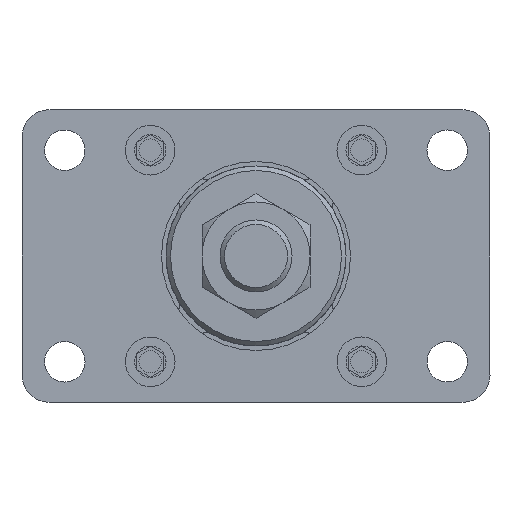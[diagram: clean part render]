
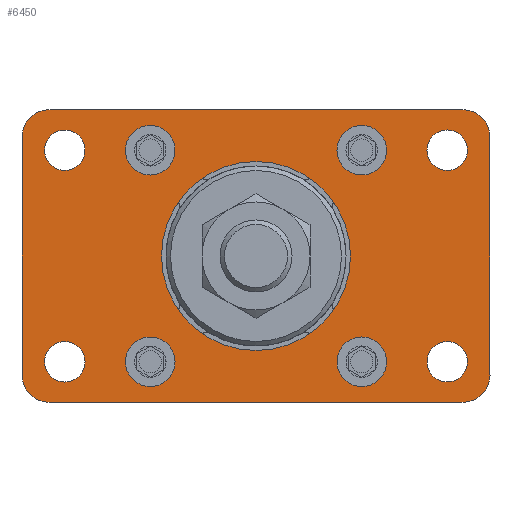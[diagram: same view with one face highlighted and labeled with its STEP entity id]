
A CAD part, front view. The second image highlights one B-rep face of the part: STEP entity #6450.
In plain terms, the highlighted planar face has unit normal (0, -1, 0).
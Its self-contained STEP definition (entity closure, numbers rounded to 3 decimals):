
#428=LINE('',#9889,#770);
#432=LINE('',#9898,#774);
#436=LINE('',#9907,#778);
#442=LINE('',#9921,#784);
#770=VECTOR('',#8387,1000.);
#774=VECTOR('',#8393,1000.);
#778=VECTOR('',#8399,1000.);
#784=VECTOR('',#8407,1000.);
#2115=ORIENTED_EDGE('',*,*,#2802,.T.);
#2116=ORIENTED_EDGE('',*,*,#2803,.T.);
#2117=ORIENTED_EDGE('',*,*,#2804,.T.);
#2118=ORIENTED_EDGE('',*,*,#2805,.T.);
#2119=ORIENTED_EDGE('',*,*,#2806,.T.);
#2120=ORIENTED_EDGE('',*,*,#2807,.T.);
#2121=ORIENTED_EDGE('',*,*,#2808,.T.);
#2122=ORIENTED_EDGE('',*,*,#2809,.T.);
#2123=ORIENTED_EDGE('',*,*,#2810,.T.);
#2124=ORIENTED_EDGE('',*,*,#2800,.T.);
#2125=ORIENTED_EDGE('',*,*,#2811,.T.);
#2126=ORIENTED_EDGE('',*,*,#2786,.T.);
#2127=ORIENTED_EDGE('',*,*,#2812,.T.);
#2128=ORIENTED_EDGE('',*,*,#2790,.T.);
#2129=ORIENTED_EDGE('',*,*,#2813,.T.);
#2130=ORIENTED_EDGE('',*,*,#2794,.T.);
#2131=ORIENTED_EDGE('',*,*,#2814,.T.);
#2786=EDGE_CURVE('',#3247,#3248,#428,.T.);
#2790=EDGE_CURVE('',#3251,#3252,#432,.T.);
#2794=EDGE_CURVE('',#3255,#3256,#436,.T.);
#2800=EDGE_CURVE('',#3262,#3261,#442,.T.);
#2802=EDGE_CURVE('',#3263,#3263,#3520,.F.);
#2803=EDGE_CURVE('',#3264,#3264,#3521,.T.);
#2804=EDGE_CURVE('',#3265,#3265,#3522,.T.);
#2805=EDGE_CURVE('',#3266,#3266,#3523,.T.);
#2806=EDGE_CURVE('',#3267,#3267,#3524,.T.);
#2807=EDGE_CURVE('',#3268,#3268,#3525,.T.);
#2808=EDGE_CURVE('',#3269,#3269,#3526,.T.);
#2809=EDGE_CURVE('',#3270,#3270,#3527,.T.);
#2810=EDGE_CURVE('',#3271,#3271,#3528,.T.);
#2811=EDGE_CURVE('',#3261,#3247,#3529,.T.);
#2812=EDGE_CURVE('',#3248,#3251,#3530,.T.);
#2813=EDGE_CURVE('',#3252,#3255,#3531,.T.);
#2814=EDGE_CURVE('',#3256,#3262,#3532,.T.);
#3247=VERTEX_POINT('',#9890);
#3248=VERTEX_POINT('',#9891);
#3251=VERTEX_POINT('',#9899);
#3252=VERTEX_POINT('',#9900);
#3255=VERTEX_POINT('',#9908);
#3256=VERTEX_POINT('',#9909);
#3261=VERTEX_POINT('',#9920);
#3262=VERTEX_POINT('',#9922);
#3263=VERTEX_POINT('',#9926);
#3264=VERTEX_POINT('',#9928);
#3265=VERTEX_POINT('',#9930);
#3266=VERTEX_POINT('',#9932);
#3267=VERTEX_POINT('',#9934);
#3268=VERTEX_POINT('',#9936);
#3269=VERTEX_POINT('',#9938);
#3270=VERTEX_POINT('',#9940);
#3271=VERTEX_POINT('',#9942);
#3520=CIRCLE('',#7006,21.);
#3521=CIRCLE('',#7007,5.5);
#3522=CIRCLE('',#7008,5.5);
#3523=CIRCLE('',#7009,5.5);
#3524=CIRCLE('',#7010,5.5);
#3525=CIRCLE('',#7011,4.5);
#3526=CIRCLE('',#7012,4.5);
#3527=CIRCLE('',#7013,4.5);
#3528=CIRCLE('',#7014,4.5);
#3529=CIRCLE('',#7015,6.);
#3530=CIRCLE('',#7016,6.);
#3531=CIRCLE('',#7017,6.);
#3532=CIRCLE('',#7018,6.);
#3902=EDGE_LOOP('',(#2115));
#3903=EDGE_LOOP('',(#2116));
#3904=EDGE_LOOP('',(#2117));
#3905=EDGE_LOOP('',(#2118));
#3906=EDGE_LOOP('',(#2119));
#3907=EDGE_LOOP('',(#2120));
#3908=EDGE_LOOP('',(#2121));
#3909=EDGE_LOOP('',(#2122));
#3910=EDGE_LOOP('',(#2123));
#3911=EDGE_LOOP('',(#2124,#2125,#2126,#2127,#2128,#2129,#2130,#2131));
#4308=FACE_BOUND('',#3902,.T.);
#4309=FACE_BOUND('',#3903,.T.);
#4310=FACE_BOUND('',#3904,.T.);
#4311=FACE_BOUND('',#3905,.T.);
#4312=FACE_BOUND('',#3906,.T.);
#4313=FACE_BOUND('',#3907,.T.);
#4314=FACE_BOUND('',#3908,.T.);
#4315=FACE_BOUND('',#3909,.T.);
#4316=FACE_BOUND('',#3910,.T.);
#4317=FACE_BOUND('',#3911,.T.);
#4503=PLANE('',#7005);
#6450=ADVANCED_FACE('',(#4308,#4309,#4310,#4311,#4312,#4313,#4314,#4315,
#4316,#4317),#4503,.T.);
#7005=AXIS2_PLACEMENT_3D('',#9924,#8409,#8410);
#7006=AXIS2_PLACEMENT_3D('',#9925,#8411,#8412);
#7007=AXIS2_PLACEMENT_3D('',#9927,#8413,#8414);
#7008=AXIS2_PLACEMENT_3D('',#9929,#8415,#8416);
#7009=AXIS2_PLACEMENT_3D('',#9931,#8417,#8418);
#7010=AXIS2_PLACEMENT_3D('',#9933,#8419,#8420);
#7011=AXIS2_PLACEMENT_3D('',#9935,#8421,#8422);
#7012=AXIS2_PLACEMENT_3D('',#9937,#8423,#8424);
#7013=AXIS2_PLACEMENT_3D('',#9939,#8425,#8426);
#7014=AXIS2_PLACEMENT_3D('',#9941,#8427,#8428);
#7015=AXIS2_PLACEMENT_3D('',#9943,#8429,#8430);
#7016=AXIS2_PLACEMENT_3D('',#9944,#8431,#8432);
#7017=AXIS2_PLACEMENT_3D('',#9945,#8433,#8434);
#7018=AXIS2_PLACEMENT_3D('',#9946,#8435,#8436);
#8387=DIRECTION('',(0.,0.,-1.));
#8393=DIRECTION('',(1.,0.,0.));
#8399=DIRECTION('',(0.,0.,1.));
#8407=DIRECTION('',(-1.,0.,0.));
#8409=DIRECTION('',(0.,-1.,0.));
#8410=DIRECTION('',(0.,0.,-1.));
#8411=DIRECTION('',(0.,-1.,0.));
#8412=DIRECTION('',(0.,0.,-1.));
#8413=DIRECTION('',(0.,1.,0.));
#8414=DIRECTION('',(0.,0.,-1.));
#8415=DIRECTION('',(0.,1.,0.));
#8416=DIRECTION('',(0.,0.,-1.));
#8417=DIRECTION('',(0.,1.,0.));
#8418=DIRECTION('',(0.,0.,-1.));
#8419=DIRECTION('',(0.,1.,0.));
#8420=DIRECTION('',(0.,0.,-1.));
#8421=DIRECTION('',(0.,1.,0.));
#8422=DIRECTION('',(1.,0.,0.));
#8423=DIRECTION('',(0.,1.,0.));
#8424=DIRECTION('',(1.,0.,0.));
#8425=DIRECTION('',(0.,1.,0.));
#8426=DIRECTION('',(1.,0.,0.));
#8427=DIRECTION('',(0.,1.,0.));
#8428=DIRECTION('',(1.,0.,0.));
#8429=DIRECTION('',(0.,-1.,0.));
#8430=DIRECTION('',(0.,0.,-1.));
#8431=DIRECTION('',(0.,-1.,0.));
#8432=DIRECTION('',(0.,0.,-1.));
#8433=DIRECTION('',(0.,-1.,0.));
#8434=DIRECTION('',(0.,0.,-1.));
#8435=DIRECTION('',(0.,-1.,0.));
#8436=DIRECTION('',(0.,0.,-1.));
#9889=CARTESIAN_POINT('',(-52.,-12.,28.));
#9890=CARTESIAN_POINT('',(-52.,-12.,26.5));
#9891=CARTESIAN_POINT('',(-52.,-12.,-26.5));
#9898=CARTESIAN_POINT('',(-43.,-12.,-32.5));
#9899=CARTESIAN_POINT('',(-46.,-12.,-32.5));
#9900=CARTESIAN_POINT('',(46.,-12.,-32.5));
#9907=CARTESIAN_POINT('',(52.,-12.,-28.));
#9908=CARTESIAN_POINT('',(52.,-12.,-26.5));
#9909=CARTESIAN_POINT('',(52.,-12.,26.5));
#9920=CARTESIAN_POINT('',(-46.,-12.,32.5));
#9921=CARTESIAN_POINT('',(43.,-12.,32.5));
#9922=CARTESIAN_POINT('',(46.,-12.,32.5));
#9924=CARTESIAN_POINT('',(0.,-12.,0.));
#9925=CARTESIAN_POINT('',(0.,-12.,0.));
#9926=CARTESIAN_POINT('',(0.,-12.,-21.));
#9927=CARTESIAN_POINT('',(-23.5,-12.,-23.5));
#9928=CARTESIAN_POINT('',(-23.5,-12.,-29.));
#9929=CARTESIAN_POINT('',(23.5,-12.,-23.5));
#9930=CARTESIAN_POINT('',(23.5,-12.,-29.));
#9931=CARTESIAN_POINT('',(23.5,-12.,23.5));
#9932=CARTESIAN_POINT('',(23.5,-12.,18.));
#9933=CARTESIAN_POINT('',(-23.5,-12.,23.5));
#9934=CARTESIAN_POINT('',(-23.5,-12.,18.));
#9935=CARTESIAN_POINT('',(42.5,-12.,-23.5));
#9936=CARTESIAN_POINT('',(47.,-12.,-23.5));
#9937=CARTESIAN_POINT('',(-42.5,-12.,-23.5));
#9938=CARTESIAN_POINT('',(-38.,-12.,-23.5));
#9939=CARTESIAN_POINT('',(-42.5,-12.,23.5));
#9940=CARTESIAN_POINT('',(-38.,-12.,23.5));
#9941=CARTESIAN_POINT('',(42.5,-12.,23.5));
#9942=CARTESIAN_POINT('',(47.,-12.,23.5));
#9943=CARTESIAN_POINT('',(-46.,-12.,26.5));
#9944=CARTESIAN_POINT('',(-46.,-12.,-26.5));
#9945=CARTESIAN_POINT('',(46.,-12.,-26.5));
#9946=CARTESIAN_POINT('',(46.,-12.,26.5));
